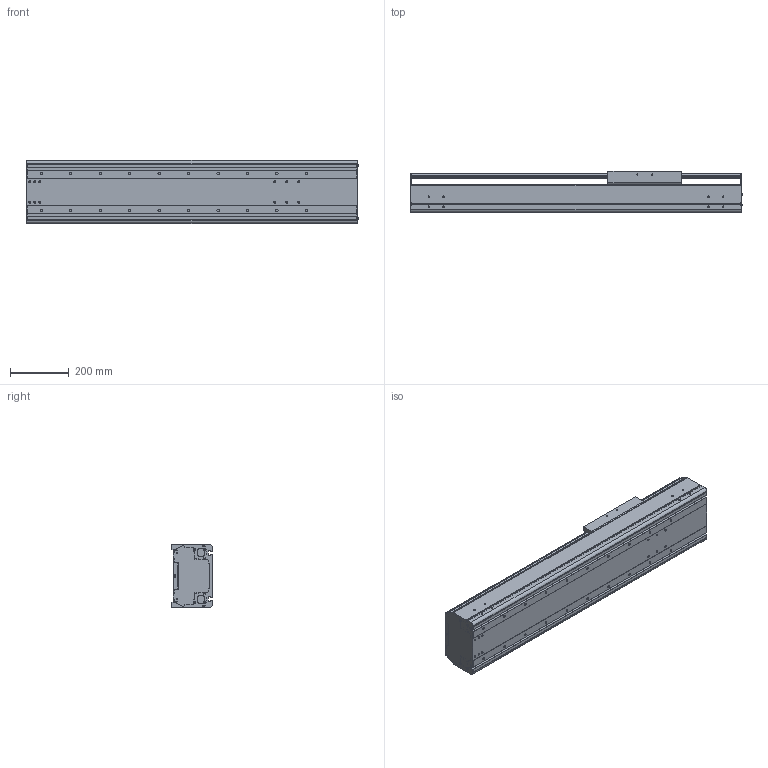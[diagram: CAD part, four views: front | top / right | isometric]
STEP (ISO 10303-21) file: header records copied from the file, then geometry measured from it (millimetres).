
FILE_DESCRIPTION((''),'2;1');
FILE_NAME('BE60J-ST-M_B-60_IGS_PRT','2017-06-18T',(' '),(''),'PRO/ENGINEER BY PARAMETRIC TECHNOLOGY CORPORATION, 2015030','PRO/ENGINEER BY PARAMETRIC TECHNOLOGY CORPORATION, 2015030','');
FILE_SCHEMA(('CONFIG_CONTROL_DESIGN'));
Length unit declared in the file: millimetre
Products named in the file (1): BE60J-ST-M_B-60_IGS_PRT
Bounding box: 1127.4 x 140 x 214 mm (x, y, z)
Volume: 9099328.4 mm3; surface area: 2427483.9 mm2
Topology: 2 solids, 28 shells, 1079 faces, 2873 edges, 1850 vertices
Faces by surface type: plane 517, cylinder 462, cone 52, torus 24, sphere 24
Entity records: 33915 total; most frequent: CARTESIAN_POINT 6352, DIRECTION 5888, ORIENTED_EDGE 5548, EDGE_CURVE 2822, AXIS2_PLACEMENT_3D 2096, VERTEX_POINT 1848, VECTOR 1696, LINE 1696
